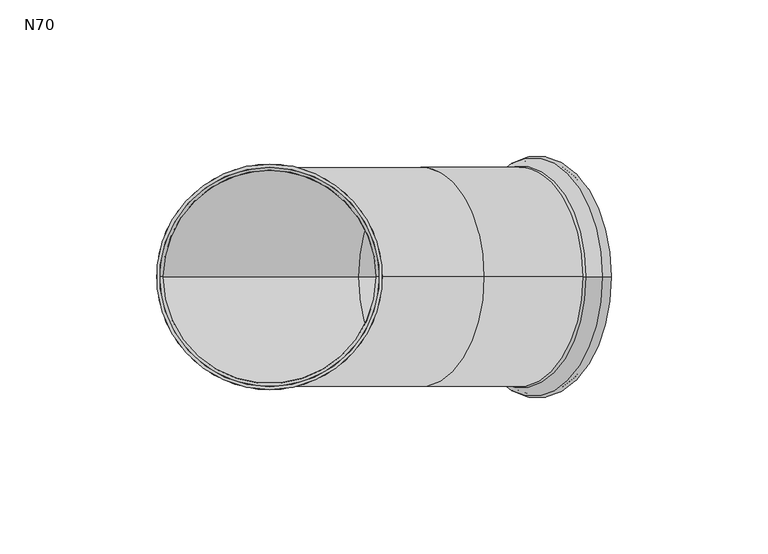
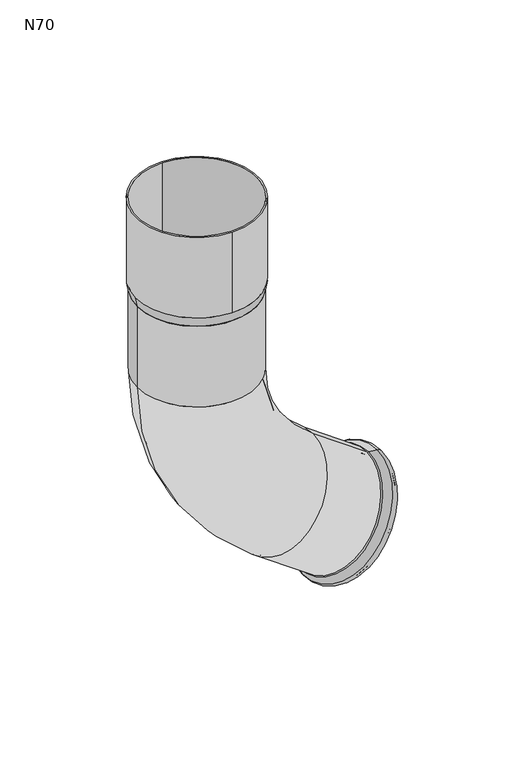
"""IFC4 building model written with IfcOpenShell, lengths in millimetres: proxy geometry, GROVIK_Downpipe_Shoe : N70."""

from ifc_helpers import new_model, si_unit, point, frame, origin, origin_with_axes, origin_2d, place, context, project, spatial, polyline, circle_curve, ellipse_curve, trimmed, segment, composite_curve, outline, extrude, source, transform, mapped, element, save
from ifc_brep_helpers import plane_surface, cylinder_surface, revolved_surface, advanced_brep


def n70_7d855513(model_context):
    return source(origin(), model_context, "Body", "SolidModel", [
        extrude(outline(composite_curve([segment(trimmed(circle_curve(origin_2d(), 36.0), [point((0.0, 36.0))], [point((0.0, -36.0))], False, "CARTESIAN"), True, "CONTINUOUS"), segment(trimmed(circle_curve(origin_2d(), 36.0), [point((0.0, -36.0))], [point((0.0, 36.0))], False, "CARTESIAN"), True, "CONTINUOUS")], self_intersect=False), holes=[composite_curve([segment(trimmed(circle_curve(origin_2d(), 35.0), [point((0.0, 35.0))], [point((0.0, -35.0))], True, "CARTESIAN"), True, "CONTINUOUS"), segment(trimmed(circle_curve(origin_2d(), 35.0), [point((0.0, -35.0))], [point((0.0, 35.0))], True, "CARTESIAN"), True, "CONTINUOUS")], self_intersect=False)]), frame((0.0, 0.0, 6.0), z_axis=(0.0, 0.0, 1.0), x_axis=(1.0, 0.0, 0.0)), (0.0, 0.0, 1.0), 50.0),
        advanced_brep(
        [(99.8479276, 0.0, -137.435546), (59.2261846, 0.0, -194.4432121), (99.267617, 0.0, -138.2499412), (59.8064952, 0.0, -193.6288168), (68.5751508, 0.0, -115.1516184), (27.9534078, 0.0, -172.1592845), (67.9948402, 0.0, -115.9660136), (28.5337184, 0.0, -171.3448892), (35.0, 0.0, 0.0), (-35.0, 0.0, 0.0), (34.0, 0.0, 0.0), (-34.0, 0.0, 0.0), (-35.0, 0.0, -50.0), (35.0, 0.0, -50.0), (-34.0, 0.0, -50.0), (34.0, 0.0, -50.0)],
        [
            (0, 1, circle_curve(frame((79.5370561, 0.0, -165.939379), z_axis=(0.8143952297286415, 0.0, -0.5803106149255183), x_axis=(-0.5803106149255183, 0.0, -0.8143952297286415)), 35.0)),
            (1, 0, circle_curve(frame((79.5370561, 0.0, -165.939379), z_axis=(0.8143952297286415, 0.0, -0.5803106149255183), x_axis=(-0.5803106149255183, 0.0, -0.8143952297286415)), 35.0)),
            (2, 3, circle_curve(frame((79.5370561, 0.0, -165.939379), z_axis=(-0.8143952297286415, 0.0, 0.5803106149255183), x_axis=(-0.5803106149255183, 0.0, -0.8143952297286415)), 34.0)),
            (3, 2, circle_curve(frame((79.5370561, 0.0, -165.939379), z_axis=(-0.8143952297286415, 0.0, 0.5803106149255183), x_axis=(-0.5803106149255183, 0.0, -0.8143952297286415)), 34.0)),
            (0, 4),
            (4, 5, circle_curve(frame((48.2642793, 0.0, -143.6554514), z_axis=(0.8143952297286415, 0.0, -0.5803106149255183), x_axis=(-0.5803106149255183, 0.0, -0.8143952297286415)), 35.0)),
            (5, 1),
            (5, 4, circle_curve(frame((48.2642793, 0.0, -143.6554514), z_axis=(0.8143952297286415, 0.0, -0.5803106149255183), x_axis=(-0.5803106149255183, 0.0, -0.8143952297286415)), 35.0)),
            (2, 6),
            (6, 7, circle_curve(frame((48.2642793, 0.0, -143.6554514), z_axis=(-0.8143952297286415, 0.0, 0.5803106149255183), x_axis=(-0.5803106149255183, 0.0, -0.8143952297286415)), 34.0)),
            (7, 3),
            (7, 6, circle_curve(frame((48.2642793, 0.0, -143.6554514), z_axis=(-0.8143952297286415, 0.0, 0.5803106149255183), x_axis=(-0.5803106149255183, 0.0, -0.8143952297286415)), 34.0)),
            (8, 9, circle_curve(frame((0.0, 0.0, 0.0), z_axis=(0.0, 0.0, 1.0), x_axis=(-1.0, 0.0, 0.0)), 35.0)),
            (9, 8, circle_curve(frame((0.0, 0.0, 0.0), z_axis=(0.0, 0.0, 1.0), x_axis=(-1.0, 0.0, 0.0)), 35.0)),
            (10, 11, circle_curve(frame((0.0, 0.0, 0.0), z_axis=(0.0, 0.0, -1.0), x_axis=(-1.0, 0.0, 0.0)), 34.0)),
            (11, 10, circle_curve(frame((0.0, 0.0, 0.0), z_axis=(0.0, 0.0, -1.0), x_axis=(-1.0, 0.0, 0.0)), 34.0)),
            (12, 13, circle_curve(frame((0.0, 0.0, -50.0), z_axis=(0.0, 0.0, 1.0), x_axis=(-1.0, 0.0, 0.0)), 35.0)),
            (13, 8),
            (9, 12),
            (13, 12, circle_curve(frame((0.0, 0.0, -50.0), z_axis=(0.0, 0.0, 1.0), x_axis=(-1.0, 0.0, 0.0)), 35.0)),
            (14, 15, circle_curve(frame((0.0, 0.0, -50.0), z_axis=(0.0, 0.0, -1.0), x_axis=(-1.0, 0.0, 0.0)), 34.0)),
            (15, 10),
            (11, 14),
            (15, 14, circle_curve(frame((0.0, 0.0, -50.0), z_axis=(0.0, 0.0, -1.0), x_axis=(-1.0, 0.0, 0.0)), 34.0)),
            (12, 5, circle_curve(frame((115.0, 0.0, -50.0), z_axis=(0.0, -1.0, 0.0), x_axis=(-0.5803106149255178, 0.0, -0.8143952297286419)), 150.0)),
            (4, 13, circle_curve(frame((115.0, 0.0, -50.0), z_axis=(0.0, 1.0, 0.0), x_axis=(-0.5803106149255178, 0.0, -0.8143952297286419)), 80.0)),
            (14, 7, circle_curve(frame((115.0, 0.0, -50.0), z_axis=(0.0, -1.0, 0.0), x_axis=(-0.5803106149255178, 0.0, -0.8143952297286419)), 149.0)),
            (6, 15, circle_curve(frame((115.0, 0.0, -50.0), z_axis=(0.0, 1.0, 0.0), x_axis=(-0.5803106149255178, 0.0, -0.8143952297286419)), 81.0)),
        ],
        [
            plane_surface(frame((79.5370561, 0.0, -165.939379), z_axis=(0.8143952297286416, 0.0, -0.5803106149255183), x_axis=(0.0, -1.0, 0.0))),
            cylinder_surface(frame((79.5370561, 0.0, -165.939379), z_axis=(0.8143952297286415, 0.0, -0.5803106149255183), x_axis=(-0.5803106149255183, 0.0, -0.8143952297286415)), 35.0),
            revolved_surface(polyline([(28.533718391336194, 0.0, -171.3448892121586), (59.806495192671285, 0.0, -193.62881681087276)]), (79.5370561, 0.0, -165.939379), (-0.8143952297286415, 0.0, 0.5803106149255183)),
            plane_surface(frame((0.0, 0.0, 0.0), z_axis=(0.0, 0.0, 1.0), x_axis=(0.0, -1.0, 0.0))),
            cylinder_surface(frame((0.0, 0.0, -50.0), z_axis=(0.0, 0.0, -1.0), x_axis=(-1.0, 0.0, 0.0)), 35.0),
            revolved_surface(polyline([(-34.0, 0.0, 0.0), (-34.0, 0.0, -50.0)]), (0.0, 0.0, -50.0), (0.0, 0.0, 1.0)),
            revolved_surface(trimmed(ellipse_curve(frame((48.2642793, 0.0, -143.6554514), z_axis=(0.8143952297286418, 0.0, -0.5803106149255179), x_axis=(-0.5803106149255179, 0.0, -0.8143952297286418)), 35.0, 35.0), [point((68.5751508, 0.0, -115.1516184))], [point((27.9534078, 0.0, -172.1592845))], True, "CARTESIAN"), (115.0, 0.0, -50.0), (0.0, 1.0, 0.0)),
            revolved_surface(trimmed(ellipse_curve(frame((48.2642793, 0.0, -143.6554514), z_axis=(0.8143952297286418, 0.0, -0.5803106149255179), x_axis=(-0.5803106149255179, 0.0, -0.8143952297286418)), 35.0, 35.0), [point((27.9534078, 0.0, -172.1592845))], [point((68.5751508, 0.0, -115.1516184))], True, "CARTESIAN"), (115.0, 0.0, -50.0), (0.0, 1.0, 0.0)),
            revolved_surface(trimmed(ellipse_curve(frame((48.2642793, 0.0, -143.6554514), z_axis=(-0.8143952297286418, 0.0, 0.5803106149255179), x_axis=(-0.5803106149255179, 0.0, -0.8143952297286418)), 34.0, 34.0), [point((67.9948402, 0.0, -115.9660136))], [point((28.5337184, 0.0, -171.3448892))], True, "CARTESIAN"), (115.0, 0.0, -50.0), (0.0, 1.0, 0.0)),
            revolved_surface(trimmed(ellipse_curve(frame((48.2642793, 0.0, -143.6554514), z_axis=(-0.8143952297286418, 0.0, 0.5803106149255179), x_axis=(-0.5803106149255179, 0.0, -0.8143952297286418)), 34.0, 34.0), [point((28.5337184, 0.0, -171.3448892))], [point((67.9948402, 0.0, -115.9660136))], True, "CARTESIAN"), (115.0, 0.0, -50.0), (0.0, 1.0, 0.0)),
        ],
        [
            (0, [[1, 2], [3, 4]]),
            (1, [[-1, 5, 6, 7]]),
            (1, [[-2, -7, 8, -5]]),
            (2, [[-3, 9, 10, 11]]),
            (2, [[-4, -11, 12, -9]]),
            (3, [[13, 14], [15, 16]]),
            (4, [[17, 18, -14, 19]]),
            (4, [[20, -19, -13, -18]]),
            (5, [[21, 22, -16, 23]]),
            (5, [[24, -23, -15, -22]]),
            (6, [[25, -6, 26, -17]]),
            (7, [[-26, -8, -25, -20]]),
            (8, [[27, -10, 28, -21]]),
            (9, [[-28, -12, -27, -24]]),
        ],
    ),
        advanced_brep(
        [(-36.0, 0.0, 6.0), (36.0, 0.0, 6.0), (35.0, 0.0, 6.0), (-35.0, 0.0, 6.0), (-35.0, 0.0, 0.0), (35.0, 0.0, 0.0), (-34.0, 0.0, 0.0), (34.0, 0.0, 0.0)],
        [
            (0, 1, circle_curve(frame((0.0, 0.0, 6.0), z_axis=(0.0, 0.0, 1.0), x_axis=(-1.0, 0.0, 0.0)), 36.0)),
            (1, 0, circle_curve(frame((0.0, 0.0, 6.0), z_axis=(0.0, 0.0, 1.0), x_axis=(1.0, 0.0, 0.0)), 36.0)),
            (2, 3, circle_curve(frame((0.0, 0.0, 6.0), z_axis=(0.0, 0.0, -1.0), x_axis=(-1.0, 0.0, 0.0)), 35.0)),
            (3, 2, circle_curve(frame((0.0, 0.0, 6.0), z_axis=(0.0, 0.0, -1.0), x_axis=(1.0, 0.0, 0.0)), 35.0)),
            (4, 5, circle_curve(frame((0.0, 0.0, 0.0), z_axis=(0.0, 0.0, -1.0), x_axis=(1.0, 0.0, 0.0)), 35.0)),
            (5, 4, circle_curve(frame((0.0, 0.0, 0.0), z_axis=(0.0, 0.0, -1.0), x_axis=(-1.0, 0.0, 0.0)), 35.0)),
            (6, 7, circle_curve(frame((0.0, 0.0, 0.0), z_axis=(0.0, 0.0, 1.0), x_axis=(-1.0, 0.0, 0.0)), 34.0)),
            (7, 6, circle_curve(origin_with_axes(), 34.0)),
            (0, 4),
            (5, 1),
            (6, 3),
            (2, 7),
        ],
        [
            plane_surface(frame((0.0, 0.0, 6.0), z_axis=(0.0, 0.0, 1.0), x_axis=(0.0, -1.0, 0.0))),
            plane_surface(frame((0.0, 0.0, 0.0), z_axis=(0.0, 0.0, -1.0), x_axis=(0.0, -1.0, 0.0))),
            revolved_surface(polyline([(35.0, 0.0, 0.0), (36.0, 0.0, 6.0)]), (0.0, 0.0, -210.0), (0.0, 0.0, 1.0)),
            revolved_surface(polyline([(-35.0, 0.0, 0.0), (-36.0, 0.0, 6.0)]), (0.0, 0.0, -210.0), (0.0, 0.0, 1.0)),
            revolved_surface(polyline([(-35.0, 0.0, 6.0), (-34.0, 0.0, 0.0)]), (0.0, 0.0, -204.0), (0.0, 0.0, 1.0)),
        ],
        [
            (0, [[1, 2], [3, 4]]),
            (1, [[5, 6], [7, 8]]),
            (2, [[-1, 9, -6, 10]]),
            (3, [[-2, -10, -5, -9]]),
            (4, [[11, -3, 12, -7]]),
            (4, [[-11, -8, -12, -4]]),
        ],
    ),
        advanced_brep(
        [(59.2261846, 0.0, -194.4432121), (99.8479276, 0.0, -137.435546), (100.9013617, 0.0, -137.8218887), (59.9352817, 0.0, -195.3127898), (59.8064952, 0.0, -193.6288168), (99.267617, 0.0, -138.2499412), (60.5256405, 0.0, -194.1412556), (99.9867624, 0.0, -138.76238), (62.9391626, 0.0, -199.849274), (106.1699712, 0.0, -139.1801025), (65.9148668, 0.0, -200.718086), (107.9626816, 0.0, -141.7091021), (68.7978249, 0.0, -197.5343755), (105.8946502, 0.0, -145.4735019), (69.617154, 0.0, -198.1182018), (106.7139793, 0.0, -146.0573282), (66.48167, 0.0, -201.5419392), (108.9264407, 0.0, -141.9758761), (62.0181138, 0.0, -200.2387212), (106.2373751, 0.0, -138.1823767)],
        [
            (0, 1, circle_curve(frame((79.5370561, 0.0, -165.939379), z_axis=(0.8143952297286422, 0.0, -0.5803106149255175), x_axis=(0.5803106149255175, 0.0, 0.8143952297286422)), 35.0)),
            (1, 2, circle_curve(frame((101.0362929, 0.0, -135.8246123), z_axis=(0.0, -1.0, 0.0), x_axis=(1.0, 0.0, 0.0)), 2.001829)),
            (2, 3, circle_curve(frame((80.4183217, 0.0, -166.5673392), z_axis=(-0.8143952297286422, 0.0, 0.5803106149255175), x_axis=(0.5803106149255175, 0.0, 0.8143952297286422)), 35.2966834)),
            (3, 0, circle_curve(frame((58.0914995, 0.0, -196.0923964), z_axis=(0.0, -1.0, 0.0), x_axis=(0.3264791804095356, 0.0, -0.9452043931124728)), 2.001829)),
            (1, 0, circle_curve(frame((79.5370561, 0.0, -165.939379), z_axis=(0.8143952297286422, 0.0, -0.5803106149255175), x_axis=(0.5803106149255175, 0.0, 0.8143952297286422)), 35.0)),
            (3, 2, circle_curve(frame((80.4183217, 0.0, -166.5673392), z_axis=(-0.8143952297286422, 0.0, 0.5803106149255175), x_axis=(0.5803106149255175, 0.0, 0.8143952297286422)), 35.2966834)),
            (4, 5, circle_curve(frame((79.5370561, 0.0, -165.939379), z_axis=(0.8143952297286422, 0.0, -0.5803106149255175), x_axis=(0.5803106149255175, 0.0, 0.8143952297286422)), 34.0)),
            (5, 1),
            (0, 4),
            (5, 4, circle_curve(frame((79.5370561, 0.0, -165.939379), z_axis=(0.8143952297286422, 0.0, -0.5803106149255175), x_axis=(0.5803106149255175, 0.0, 0.8143952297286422)), 34.0)),
            (6, 7, circle_curve(frame((80.2562015, 0.0, -166.4518178), z_axis=(0.8143952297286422, 0.0, -0.5803106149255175), x_axis=(0.5803106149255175, 0.0, 0.8143952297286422)), 34.0)),
            (7, 5),
            (4, 6),
            (7, 6, circle_curve(frame((80.2562015, 0.0, -166.4518178), z_axis=(0.8143952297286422, 0.0, -0.5803106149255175), x_axis=(0.5803106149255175, 0.0, 0.8143952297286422)), 34.0)),
            (8, 9, circle_curve(frame((84.5545669, 0.0, -169.5146883), z_axis=(0.8143952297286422, 0.0, -0.5803106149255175), x_axis=(0.5803106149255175, 0.0, 0.8143952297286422)), 37.2479905)),
            (9, 7),
            (6, 8),
            (9, 8, circle_curve(frame((84.5545669, 0.0, -169.5146883), z_axis=(0.8143952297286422, 0.0, -0.5803106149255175), x_axis=(0.5803106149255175, 0.0, 0.8143952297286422)), 37.2479905)),
            (10, 11, circle_curve(frame((86.9387742, 0.0, -171.2135941), z_axis=(0.8143952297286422, 0.0, -0.5803106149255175), x_axis=(0.5803106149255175, 0.0, 0.8143952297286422)), 36.2287142)),
            (11, 9, circle_curve(frame((106.0351633, 0.0, -141.175554), z_axis=(0.0, -1.0, 0.0), x_axis=(1.0, 0.0, 0.0)), 2.0)),
            (8, 10, circle_curve(frame((64.7812602, 0.0, -199.0703797), z_axis=(0.0, -1.0, 0.0), x_axis=(0.3264791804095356, 0.0, -0.9452043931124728)), 2.0)),
            (11, 10, circle_curve(frame((86.9387742, 0.0, -171.2135941), z_axis=(0.8143952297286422, 0.0, -0.5803106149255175), x_axis=(0.5803106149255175, 0.0, 0.8143952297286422)), 36.2287142)),
            (12, 13, circle_curve(frame((87.3462375, 0.0, -171.5039387), z_axis=(0.8143952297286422, 0.0, -0.5803106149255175), x_axis=(0.5803106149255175, 0.0, 0.8143952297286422)), 31.9629043)),
            (13, 11, circle_curve(frame((98.9729013, 0.0, -139.2206795), z_axis=(0.0, -1.0, 0.0), x_axis=(1.0, 0.0, 0.0)), 9.3278291)),
            (10, 12, circle_curve(frame((60.6278228, 0.0, -193.0333244), z_axis=(0.0, -1.0, 0.0), x_axis=(0.3264791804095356, 0.0, -0.9452043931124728)), 9.3278291)),
            (13, 12, circle_curve(frame((87.3462375, 0.0, -171.5039387), z_axis=(0.8143952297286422, 0.0, -0.5803106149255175), x_axis=(0.5803106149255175, 0.0, 0.8143952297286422)), 31.9629043)),
            (14, 15, circle_curve(frame((88.1655666, 0.0, -172.087765), z_axis=(0.8143952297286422, 0.0, -0.5803106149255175), x_axis=(0.5803106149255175, 0.0, 0.8143952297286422)), 31.9629043)),
            (15, 13),
            (12, 14),
            (15, 14, circle_curve(frame((88.1655666, 0.0, -172.087765), z_axis=(0.8143952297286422, 0.0, -0.5803106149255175), x_axis=(0.5803106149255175, 0.0, 0.8143952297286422)), 31.9629043)),
            (16, 17, circle_curve(frame((87.7040554, 0.0, -171.7589077), z_axis=(0.8143952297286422, 0.0, -0.5803106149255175), x_axis=(0.5803106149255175, 0.0, 0.8143952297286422)), 36.5707343)),
            (17, 15, circle_curve(frame((98.9729013, 0.0, -139.2206795), z_axis=(0.0, 1.0, 0.0), x_axis=(1.0, 0.0, 0.0)), 10.3278291)),
            (14, 16, circle_curve(frame((60.6278228, 0.0, -193.0333244), z_axis=(0.0, 1.0, 0.0), x_axis=(0.3264791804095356, 0.0, -0.9452043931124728)), 10.3278291)),
            (17, 16, circle_curve(frame((87.7040554, 0.0, -171.7589077), z_axis=(0.8143952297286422, 0.0, -0.5803106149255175), x_axis=(0.5803106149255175, 0.0, 0.8143952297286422)), 36.5707343)),
            (18, 19, circle_curve(frame((84.1277445, 0.0, -169.210549), z_axis=(0.8143952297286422, 0.0, -0.5803106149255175), x_axis=(0.5803106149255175, 0.0, 0.8143952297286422)), 38.0996488)),
            (19, 17, circle_curve(frame((106.0351633, 0.0, -141.175554), z_axis=(0.0, 1.0, 0.0), x_axis=(1.0, 0.0, 0.0)), 3.0)),
            (16, 18, circle_curve(frame((64.7812602, 0.0, -199.0703797), z_axis=(0.0, 1.0, 0.0), x_axis=(0.3264791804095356, 0.0, -0.9452043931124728)), 3.0)),
            (19, 18, circle_curve(frame((84.1277445, 0.0, -169.210549), z_axis=(0.8143952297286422, 0.0, -0.5803106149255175), x_axis=(0.5803106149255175, 0.0, 0.8143952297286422)), 38.0996488)),
            (2, 19),
            (18, 3),
        ],
        [
            revolved_surface(trimmed(ellipse_curve(frame((101.0362929, 0.0, -135.8246123), z_axis=(0.0, 1.0, 0.0), x_axis=(1.0, 0.0, 0.0)), 2.001829, 2.001829), [point((100.9013617, 0.0, -137.8218887))], [point((99.8479276, 0.0, -137.435546))], True, "CARTESIAN"), (113.9864599, 0.0, -190.486864), (-0.8143952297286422, 0.0, 0.5803106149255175)),
            plane_surface(frame((79.5370561, 0.0, -165.939379), z_axis=(-0.8143952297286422, 0.0, 0.5803106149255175), x_axis=(0.5803106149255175, 0.0, 0.8143952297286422))),
            revolved_surface(polyline([(99.26761701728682, 0.0, -138.2499411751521), (99.98676242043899, 0.0, -138.7623799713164)]), (113.9864599, 0.0, -190.486864), (-0.8143952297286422, 0.0, 0.5803106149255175)),
            revolved_surface(polyline([(99.9867624, 0.0, -138.76238), (106.1699712, 0.0, -139.1801025)]), (113.9864599, 0.0, -190.486864), (-0.8143952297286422, 0.0, 0.5803106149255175)),
            revolved_surface(trimmed(ellipse_curve(frame((106.0351633, 0.0, -141.175554), z_axis=(0.0, 1.0, 0.0), x_axis=(1.0, 0.0, 0.0)), 2.0, 2.0), [point((106.1699712, 0.0, -139.1801025))], [point((107.9626816, 0.0, -141.7091021))], True, "CARTESIAN"), (113.9864599, 0.0, -190.486864), (-0.8143952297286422, 0.0, 0.5803106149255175)),
            revolved_surface(trimmed(ellipse_curve(frame((98.9729013, 0.0, -139.2206795), z_axis=(0.0, 1.0, 0.0), x_axis=(1.0, 0.0, 0.0)), 9.3278291, 9.3278291), [point((107.9626816, 0.0, -141.7091021))], [point((105.8946502, 0.0, -145.4735019))], True, "CARTESIAN"), (113.9864599, 0.0, -190.486864), (-0.8143952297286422, 0.0, 0.5803106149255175)),
            revolved_surface(polyline([(105.89465016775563, 0.0, -145.47350188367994), (106.71397929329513, 0.0, -146.05732822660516)]), (113.9864599, 0.0, -190.486864), (-0.8143952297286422, 0.0, 0.5803106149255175)),
            revolved_surface(trimmed(ellipse_curve(frame((98.9729013, 0.0, -139.2206795), z_axis=(0.0, -1.0, 0.0), x_axis=(1.0, 0.0, 0.0)), 10.3278291, 10.3278291), [point((106.7139793, 0.0, -146.0573282))], [point((108.9264407, 0.0, -141.9758761))], True, "CARTESIAN"), (113.9864599, 0.0, -190.486864), (-0.8143952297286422, 0.0, 0.5803106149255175)),
            revolved_surface(trimmed(ellipse_curve(frame((106.0351633, 0.0, -141.175554), z_axis=(0.0, -1.0, 0.0), x_axis=(1.0, 0.0, 0.0)), 3.0, 3.0), [point((108.9264407, 0.0, -141.9758761))], [point((106.2373751, 0.0, -138.1823767))], True, "CARTESIAN"), (113.9864599, 0.0, -190.486864), (-0.8143952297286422, 0.0, 0.5803106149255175)),
            revolved_surface(polyline([(106.2373751, 0.0, -138.1823767), (100.9013617, 0.0, -137.8218887)]), (113.9864599, 0.0, -190.486864), (-0.8143952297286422, 0.0, 0.5803106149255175)),
        ],
        [
            (0, [[1, 2, 3, 4]]),
            (0, [[5, -4, 6, -2]]),
            (1, [[7, 8, -1, 9]]),
            (1, [[10, -9, -5, -8]]),
            (2, [[11, 12, -7, 13]]),
            (2, [[14, -13, -10, -12]]),
            (3, [[15, 16, -11, 17]]),
            (3, [[18, -17, -14, -16]]),
            (4, [[19, 20, -15, 21]]),
            (4, [[22, -21, -18, -20]]),
            (5, [[23, 24, -19, 25]]),
            (5, [[26, -25, -22, -24]]),
            (6, [[27, 28, -23, 29]]),
            (6, [[30, -29, -26, -28]]),
            (7, [[31, 32, -27, 33]]),
            (7, [[34, -33, -30, -32]]),
            (8, [[35, 36, -31, 37]]),
            (8, [[38, -37, -34, -36]]),
            (9, [[-3, 39, -35, 40]]),
            (9, [[-6, -40, -38, -39]]),
        ],
    ),
    ])


if __name__ == "__main__":
    model = new_model("IFC4")
    model_context = context("Model", 3, world=origin())
    ifc_project = project(units=[si_unit("LENGTHUNIT", "METRE", prefix="MILLI")], contexts=[model_context])
    site = spatial("IfcSite", under=ifc_project)
    building = spatial("IfcBuilding", under=site)
    placement = place(None, origin())
    n70_shape = n70_7d855513(model_context)
    element("IfcBuildingElementProxy", 1, Name="GROVIK_Downpipe_Shoe : N70", ObjectType="GROVIK_Downpipe_Shoe : N70", at=placement, inside=building, context=model_context, shape_type="MappedRepresentation", body=[
        mapped(n70_shape, transform((0.0, 0.0, 0.0), x_axis=(1.0, 0.0, 0.0), y_axis=(0.0, 1.0, 0.0), z_axis=(0.0, 0.0, 1.0))),
    ])
    save(model, "model.ifc")
